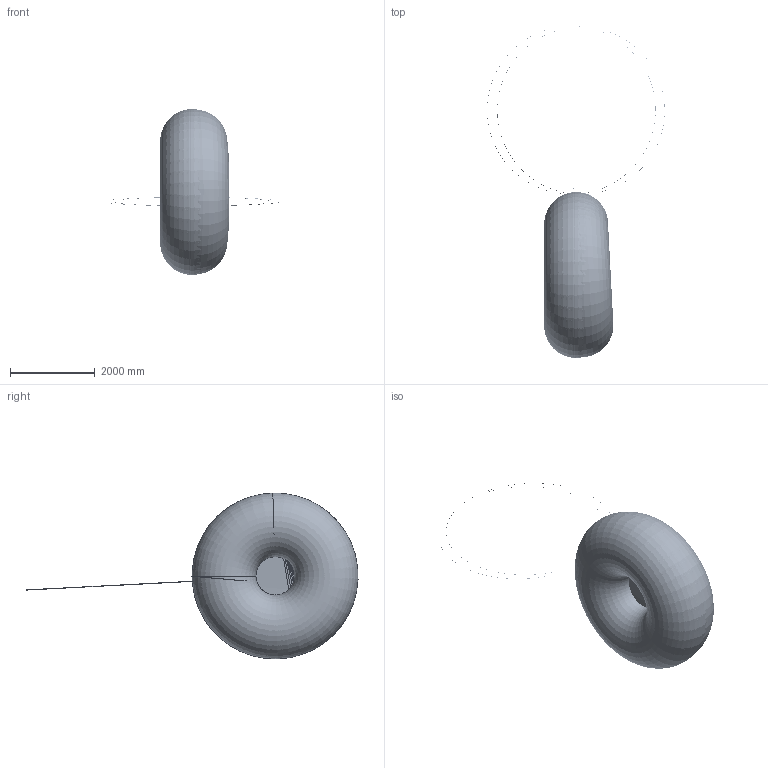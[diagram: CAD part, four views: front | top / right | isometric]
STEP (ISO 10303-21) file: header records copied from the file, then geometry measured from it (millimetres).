
FILE_DESCRIPTION((''),'2;1');
FILE_NAME('DDD_ASM_1_ASM_ASM','2017-05-04T',('PLanneville'),(''),'PRO/ENGINEER BY PARAMETRIC TECHNOLOGY CORPORATION, 2016360','PRO/ENGINEER BY PARAMETRIC TECHNOLOGY CORPORATION, 2016360','');
FILE_SCHEMA(('CONFIG_CONTROL_DESIGN'));
Products named in the file (39): PRT0118_1; PRT0119_1; PRT0120_1; PRT0121_1; PRT0122_1; PRT0123_1; PRT0124_1; PRT0125_1; PRT0126_1; PRT0127_1; ASM0011_ASM_1_ASM; PRT0128_1; PRT0129_1; PRT0130_1; PRT0131_1; ASM0010_ASM_1_ASM; PRT0132_1; PRT0133_1; PRT0134_1; PRT0135_1; ASM0012_ASM_1_ASM; ASM0009_ASM_1_ASM; PRT0136_1; PRT0137_1; PRT0138_1; PRT0139_1; 30223035_2-56_RED_OD_WASHER_1; PRT0140_1; PRT0141_1; SCREW_SOCKET_2-56X3-16_1; PRT0142_1; PRT0143_1; M3_8_TFS_1; PRT0144_1; PRT0145_1; 35023100_1; PRT0146_1; PRT0147_1; DDD_ASM_1_ASM_ASM
Assembly tree (48 placements, depth 5):
  DDD_ASM_1_ASM_ASM
    PRT0118_1
    PRT0119_1
    PRT0120_1
    ASM0009_ASM_1_ASM
      ASM0010_ASM_1_ASM
        ASM0011_ASM_1_ASM
          PRT0121_1
          PRT0122_1
          PRT0123_1
          PRT0124_1
          PRT0125_1
          PRT0126_1
          PRT0127_1
        PRT0128_1
        PRT0129_1
        PRT0130_1
        PRT0131_1
      ASM0012_ASM_1_ASM
        PRT0132_1
        PRT0133_1
        PRT0134_1
        PRT0135_1
    PRT0136_1
    PRT0137_1
    PRT0138_1
    PRT0139_1
    30223035_2-56_RED_OD_WASHER_1  x2
    PRT0140_1
    PRT0141_1
    SCREW_SOCKET_2-56X3-16_1  x2
    PRT0142_1
    PRT0143_1
    M3_8_TFS_1  x3
    PRT0144_1
    PRT0145_1
    35023100_1  x7
    PRT0146_1
    PRT0147_1
Bounding box: 4182.03 x 7812.07 x 3903.29 mm (x, y, z)
Surface area: 1741794963.7 mm2 (no closed solid volume)
Topology: 0 solids, 0 shells, 10209 faces, 56149 edges, 55444 vertices
Faces by surface type: bspline 9265, torus 835, sphere 109
Entity records: 886182 total; most frequent: CARTESIAN_POINT 481150, DIRECTION 58706, TRIMMED_CURVE 50629, DEFINITIONAL_REPRESENTATION 47815, PCURVE 47815, COMPOSITE_CURVE_SEGMENT 47815, VECTOR 44602, LINE 44602
